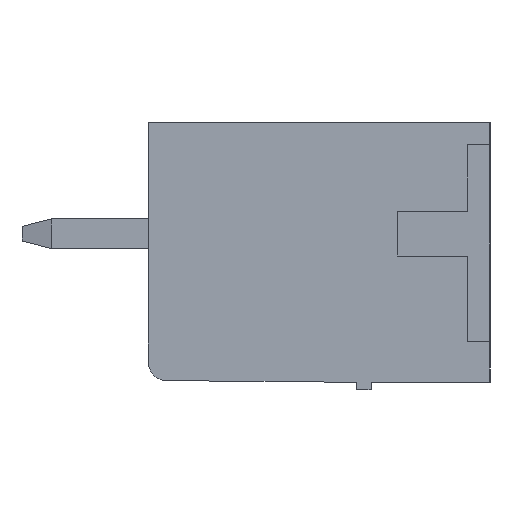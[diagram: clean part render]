
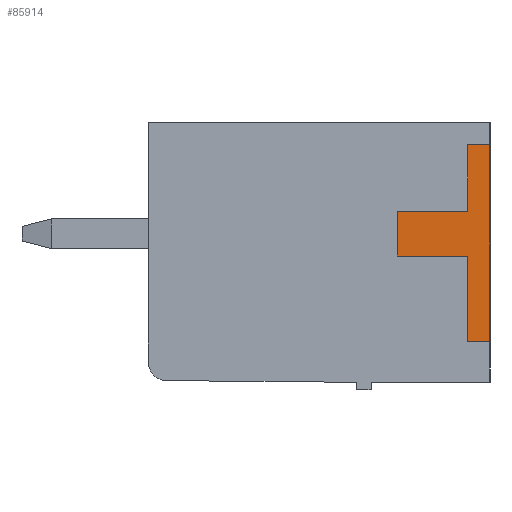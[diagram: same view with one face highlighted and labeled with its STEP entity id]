
A CAD part, left-side view. The second image highlights one B-rep face of the part: STEP entity #85914.
In plain terms, the highlighted planar face has unit normal (-1, 0, 0).
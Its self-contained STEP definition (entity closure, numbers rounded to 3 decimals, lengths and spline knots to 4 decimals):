
#100 = PLANE('',#101);
#101 = AXIS2_PLACEMENT_3D('',#102,#103,#104);
#102 = CARTESIAN_POINT('',(0.,0.,7.));
#103 = DIRECTION('',(0.,-1.,0.));
#104 = DIRECTION('',(0.,0.,-1.));
#128 = PLANE('',#129);
#129 = AXIS2_PLACEMENT_3D('',#130,#131,#132);
#130 = CARTESIAN_POINT('',(0.,0.,6.4));
#131 = DIRECTION('',(0.,0.,1.));
#132 = DIRECTION('',(0.,1.,0.));
#156 = PLANE('',#157);
#157 = AXIS2_PLACEMENT_3D('',#158,#159,#160);
#158 = CARTESIAN_POINT('',(0.,0.6,6.4));
#159 = DIRECTION('',(0.,1.,0.));
#160 = DIRECTION('',(0.,0.,-1.));
#184 = PLANE('',#185);
#185 = AXIS2_PLACEMENT_3D('',#186,#187,#188);
#186 = CARTESIAN_POINT('',(0.,0.6,4.6));
#187 = DIRECTION('',(0.,0.,1.));
#188 = DIRECTION('',(0.,1.,0.));
#212 = PLANE('',#213);
#213 = AXIS2_PLACEMENT_3D('',#214,#215,#216);
#214 = CARTESIAN_POINT('',(0.,2.5,4.6));
#215 = DIRECTION('',(0.,1.,0.));
#216 = DIRECTION('',(0.,0.,-1.));
#240 = PLANE('',#241);
#241 = AXIS2_PLACEMENT_3D('',#242,#243,#244);
#242 = CARTESIAN_POINT('',(0.,2.5,3.4));
#243 = DIRECTION('',(0.,0.,-1.));
#244 = DIRECTION('',(0.,-1.,0.));
#268 = PLANE('',#269);
#269 = AXIS2_PLACEMENT_3D('',#270,#271,#272);
#270 = CARTESIAN_POINT('',(0.,0.6,3.4));
#271 = DIRECTION('',(0.,1.,0.));
#272 = DIRECTION('',(0.,0.,-1.));
#296 = PLANE('',#297);
#297 = AXIS2_PLACEMENT_3D('',#298,#299,#300);
#298 = CARTESIAN_POINT('',(0.,0.6,1.1));
#299 = DIRECTION('',(0.,0.,-1.));
#300 = DIRECTION('',(0.,-1.,0.));
#10412 = VERTEX_POINT('',#10413);
#10413 = CARTESIAN_POINT('',(-0.2,0.,1.1));
#10434 = EDGE_CURVE('',#10412,#10435,#10437,.T.);
#10435 = VERTEX_POINT('',#10436);
#10436 = CARTESIAN_POINT('',(-0.2,0.,6.4));
#10437 = SURFACE_CURVE('',#10438,(#10442,#10449),.PCURVE_S1.);
#10438 = LINE('',#10439,#10440);
#10439 = CARTESIAN_POINT('',(-0.2,0.,1.1));
#10440 = VECTOR('',#10441,1.);
#10441 = DIRECTION('',(0.,0.,1.));
#10442 = PCURVE('',#100,#10443);
#10443 = DEFINITIONAL_REPRESENTATION('',(#10444),#10448);
#10444 = LINE('',#10445,#10446);
#10445 = CARTESIAN_POINT('',(5.9,-0.2));
#10446 = VECTOR('',#10447,1.);
#10447 = DIRECTION('',(-1.,0.));
#10448 = ( GEOMETRIC_REPRESENTATION_CONTEXT(2) 
PARAMETRIC_REPRESENTATION_CONTEXT() REPRESENTATION_CONTEXT('2D SPACE',''
  ) );
#10449 = PCURVE('',#10450,#10455);
#10450 = PLANE('',#10451);
#10451 = AXIS2_PLACEMENT_3D('',#10452,#10453,#10454);
#10452 = CARTESIAN_POINT('',(-0.2,0.,0.));
#10453 = DIRECTION('',(-1.,0.,0.));
#10454 = DIRECTION('',(0.,0.,1.));
#10455 = DEFINITIONAL_REPRESENTATION('',(#10456),#10460);
#10456 = LINE('',#10457,#10458);
#10457 = CARTESIAN_POINT('',(1.1,0.));
#10458 = VECTOR('',#10459,1.);
#10459 = DIRECTION('',(1.,0.));
#10460 = ( GEOMETRIC_REPRESENTATION_CONTEXT(2) 
PARAMETRIC_REPRESENTATION_CONTEXT() REPRESENTATION_CONTEXT('2D SPACE',''
  ) );
#85599 = VERTEX_POINT('',#85600);
#85600 = CARTESIAN_POINT('',(-0.2,0.6,1.1));
#85621 = EDGE_CURVE('',#85599,#10412,#85622,.T.);
#85622 = SURFACE_CURVE('',#85623,(#85627,#85634),.PCURVE_S1.);
#85623 = LINE('',#85624,#85625);
#85624 = CARTESIAN_POINT('',(-0.2,0.6,1.1));
#85625 = VECTOR('',#85626,1.);
#85626 = DIRECTION('',(0.,-1.,0.));
#85627 = PCURVE('',#296,#85628);
#85628 = DEFINITIONAL_REPRESENTATION('',(#85629),#85633);
#85629 = LINE('',#85630,#85631);
#85630 = CARTESIAN_POINT('',(0.,0.2));
#85631 = VECTOR('',#85632,1.);
#85632 = DIRECTION('',(1.,0.));
#85633 = ( GEOMETRIC_REPRESENTATION_CONTEXT(2) 
PARAMETRIC_REPRESENTATION_CONTEXT() REPRESENTATION_CONTEXT('2D SPACE',''
  ) );
#85634 = PCURVE('',#10450,#85635);
#85635 = DEFINITIONAL_REPRESENTATION('',(#85636),#85640);
#85636 = LINE('',#85637,#85638);
#85637 = CARTESIAN_POINT('',(1.1,0.6));
#85638 = VECTOR('',#85639,1.);
#85639 = DIRECTION('',(0.,-1.));
#85640 = ( GEOMETRIC_REPRESENTATION_CONTEXT(2) 
PARAMETRIC_REPRESENTATION_CONTEXT() REPRESENTATION_CONTEXT('2D SPACE',''
  ) );
#85648 = VERTEX_POINT('',#85649);
#85649 = CARTESIAN_POINT('',(-0.2,0.6,3.4));
#85670 = EDGE_CURVE('',#85648,#85599,#85671,.T.);
#85671 = SURFACE_CURVE('',#85672,(#85676,#85683),.PCURVE_S1.);
#85672 = LINE('',#85673,#85674);
#85673 = CARTESIAN_POINT('',(-0.2,0.6,3.4));
#85674 = VECTOR('',#85675,1.);
#85675 = DIRECTION('',(0.,0.,-1.));
#85676 = PCURVE('',#268,#85677);
#85677 = DEFINITIONAL_REPRESENTATION('',(#85678),#85682);
#85678 = LINE('',#85679,#85680);
#85679 = CARTESIAN_POINT('',(0.,0.2));
#85680 = VECTOR('',#85681,1.);
#85681 = DIRECTION('',(1.,0.));
#85682 = ( GEOMETRIC_REPRESENTATION_CONTEXT(2) 
PARAMETRIC_REPRESENTATION_CONTEXT() REPRESENTATION_CONTEXT('2D SPACE',''
  ) );
#85683 = PCURVE('',#10450,#85684);
#85684 = DEFINITIONAL_REPRESENTATION('',(#85685),#85689);
#85685 = LINE('',#85686,#85687);
#85686 = CARTESIAN_POINT('',(3.4,0.6));
#85687 = VECTOR('',#85688,1.);
#85688 = DIRECTION('',(-1.,0.));
#85689 = ( GEOMETRIC_REPRESENTATION_CONTEXT(2) 
PARAMETRIC_REPRESENTATION_CONTEXT() REPRESENTATION_CONTEXT('2D SPACE',''
  ) );
#85697 = VERTEX_POINT('',#85698);
#85698 = CARTESIAN_POINT('',(-0.2,2.5,3.4));
#85719 = EDGE_CURVE('',#85697,#85648,#85720,.T.);
#85720 = SURFACE_CURVE('',#85721,(#85725,#85732),.PCURVE_S1.);
#85721 = LINE('',#85722,#85723);
#85722 = CARTESIAN_POINT('',(-0.2,2.5,3.4));
#85723 = VECTOR('',#85724,1.);
#85724 = DIRECTION('',(0.,-1.,0.));
#85725 = PCURVE('',#240,#85726);
#85726 = DEFINITIONAL_REPRESENTATION('',(#85727),#85731);
#85727 = LINE('',#85728,#85729);
#85728 = CARTESIAN_POINT('',(0.,0.2));
#85729 = VECTOR('',#85730,1.);
#85730 = DIRECTION('',(1.,0.));
#85731 = ( GEOMETRIC_REPRESENTATION_CONTEXT(2) 
PARAMETRIC_REPRESENTATION_CONTEXT() REPRESENTATION_CONTEXT('2D SPACE',''
  ) );
#85732 = PCURVE('',#10450,#85733);
#85733 = DEFINITIONAL_REPRESENTATION('',(#85734),#85738);
#85734 = LINE('',#85735,#85736);
#85735 = CARTESIAN_POINT('',(3.4,2.5));
#85736 = VECTOR('',#85737,1.);
#85737 = DIRECTION('',(0.,-1.));
#85738 = ( GEOMETRIC_REPRESENTATION_CONTEXT(2) 
PARAMETRIC_REPRESENTATION_CONTEXT() REPRESENTATION_CONTEXT('2D SPACE',''
  ) );
#85746 = VERTEX_POINT('',#85747);
#85747 = CARTESIAN_POINT('',(-0.2,2.5,4.6));
#85768 = EDGE_CURVE('',#85746,#85697,#85769,.T.);
#85769 = SURFACE_CURVE('',#85770,(#85774,#85781),.PCURVE_S1.);
#85770 = LINE('',#85771,#85772);
#85771 = CARTESIAN_POINT('',(-0.2,2.5,4.6));
#85772 = VECTOR('',#85773,1.);
#85773 = DIRECTION('',(0.,0.,-1.));
#85774 = PCURVE('',#212,#85775);
#85775 = DEFINITIONAL_REPRESENTATION('',(#85776),#85780);
#85776 = LINE('',#85777,#85778);
#85777 = CARTESIAN_POINT('',(0.,0.2));
#85778 = VECTOR('',#85779,1.);
#85779 = DIRECTION('',(1.,0.));
#85780 = ( GEOMETRIC_REPRESENTATION_CONTEXT(2) 
PARAMETRIC_REPRESENTATION_CONTEXT() REPRESENTATION_CONTEXT('2D SPACE',''
  ) );
#85781 = PCURVE('',#10450,#85782);
#85782 = DEFINITIONAL_REPRESENTATION('',(#85783),#85787);
#85783 = LINE('',#85784,#85785);
#85784 = CARTESIAN_POINT('',(4.6,2.5));
#85785 = VECTOR('',#85786,1.);
#85786 = DIRECTION('',(-1.,0.));
#85787 = ( GEOMETRIC_REPRESENTATION_CONTEXT(2) 
PARAMETRIC_REPRESENTATION_CONTEXT() REPRESENTATION_CONTEXT('2D SPACE',''
  ) );
#85795 = VERTEX_POINT('',#85796);
#85796 = CARTESIAN_POINT('',(-0.2,0.6,4.6));
#85817 = EDGE_CURVE('',#85795,#85746,#85818,.T.);
#85818 = SURFACE_CURVE('',#85819,(#85823,#85830),.PCURVE_S1.);
#85819 = LINE('',#85820,#85821);
#85820 = CARTESIAN_POINT('',(-0.2,0.6,4.6));
#85821 = VECTOR('',#85822,1.);
#85822 = DIRECTION('',(0.,1.,0.));
#85823 = PCURVE('',#184,#85824);
#85824 = DEFINITIONAL_REPRESENTATION('',(#85825),#85829);
#85825 = LINE('',#85826,#85827);
#85826 = CARTESIAN_POINT('',(0.,0.2));
#85827 = VECTOR('',#85828,1.);
#85828 = DIRECTION('',(1.,0.));
#85829 = ( GEOMETRIC_REPRESENTATION_CONTEXT(2) 
PARAMETRIC_REPRESENTATION_CONTEXT() REPRESENTATION_CONTEXT('2D SPACE',''
  ) );
#85830 = PCURVE('',#10450,#85831);
#85831 = DEFINITIONAL_REPRESENTATION('',(#85832),#85836);
#85832 = LINE('',#85833,#85834);
#85833 = CARTESIAN_POINT('',(4.6,0.6));
#85834 = VECTOR('',#85835,1.);
#85835 = DIRECTION('',(0.,1.));
#85836 = ( GEOMETRIC_REPRESENTATION_CONTEXT(2) 
PARAMETRIC_REPRESENTATION_CONTEXT() REPRESENTATION_CONTEXT('2D SPACE',''
  ) );
#85844 = VERTEX_POINT('',#85845);
#85845 = CARTESIAN_POINT('',(-0.2,0.6,6.4));
#85866 = EDGE_CURVE('',#85844,#85795,#85867,.T.);
#85867 = SURFACE_CURVE('',#85868,(#85872,#85879),.PCURVE_S1.);
#85868 = LINE('',#85869,#85870);
#85869 = CARTESIAN_POINT('',(-0.2,0.6,6.4));
#85870 = VECTOR('',#85871,1.);
#85871 = DIRECTION('',(0.,0.,-1.));
#85872 = PCURVE('',#156,#85873);
#85873 = DEFINITIONAL_REPRESENTATION('',(#85874),#85878);
#85874 = LINE('',#85875,#85876);
#85875 = CARTESIAN_POINT('',(0.,0.2));
#85876 = VECTOR('',#85877,1.);
#85877 = DIRECTION('',(1.,0.));
#85878 = ( GEOMETRIC_REPRESENTATION_CONTEXT(2) 
PARAMETRIC_REPRESENTATION_CONTEXT() REPRESENTATION_CONTEXT('2D SPACE',''
  ) );
#85879 = PCURVE('',#10450,#85880);
#85880 = DEFINITIONAL_REPRESENTATION('',(#85881),#85885);
#85881 = LINE('',#85882,#85883);
#85882 = CARTESIAN_POINT('',(6.4,0.6));
#85883 = VECTOR('',#85884,1.);
#85884 = DIRECTION('',(-1.,0.));
#85885 = ( GEOMETRIC_REPRESENTATION_CONTEXT(2) 
PARAMETRIC_REPRESENTATION_CONTEXT() REPRESENTATION_CONTEXT('2D SPACE',''
  ) );
#85893 = EDGE_CURVE('',#10435,#85844,#85894,.T.);
#85894 = SURFACE_CURVE('',#85895,(#85899,#85906),.PCURVE_S1.);
#85895 = LINE('',#85896,#85897);
#85896 = CARTESIAN_POINT('',(-0.2,0.,6.4));
#85897 = VECTOR('',#85898,1.);
#85898 = DIRECTION('',(0.,1.,0.));
#85899 = PCURVE('',#128,#85900);
#85900 = DEFINITIONAL_REPRESENTATION('',(#85901),#85905);
#85901 = LINE('',#85902,#85903);
#85902 = CARTESIAN_POINT('',(0.,0.2));
#85903 = VECTOR('',#85904,1.);
#85904 = DIRECTION('',(1.,0.));
#85905 = ( GEOMETRIC_REPRESENTATION_CONTEXT(2) 
PARAMETRIC_REPRESENTATION_CONTEXT() REPRESENTATION_CONTEXT('2D SPACE',''
  ) );
#85906 = PCURVE('',#10450,#85907);
#85907 = DEFINITIONAL_REPRESENTATION('',(#85908),#85912);
#85908 = LINE('',#85909,#85910);
#85909 = CARTESIAN_POINT('',(6.4,0.));
#85910 = VECTOR('',#85911,1.);
#85911 = DIRECTION('',(0.,1.));
#85912 = ( GEOMETRIC_REPRESENTATION_CONTEXT(2) 
PARAMETRIC_REPRESENTATION_CONTEXT() REPRESENTATION_CONTEXT('2D SPACE',''
  ) );
#85914 = ADVANCED_FACE('',(#85915),#10450,.T.);
#85915 = FACE_BOUND('',#85916,.F.);
#85916 = EDGE_LOOP('',(#85917,#85918,#85919,#85920,#85921,#85922,#85923,
    #85924));
#85917 = ORIENTED_EDGE('',*,*,#85893,.F.);
#85918 = ORIENTED_EDGE('',*,*,#10434,.F.);
#85919 = ORIENTED_EDGE('',*,*,#85621,.F.);
#85920 = ORIENTED_EDGE('',*,*,#85670,.F.);
#85921 = ORIENTED_EDGE('',*,*,#85719,.F.);
#85922 = ORIENTED_EDGE('',*,*,#85768,.F.);
#85923 = ORIENTED_EDGE('',*,*,#85817,.F.);
#85924 = ORIENTED_EDGE('',*,*,#85866,.F.);
